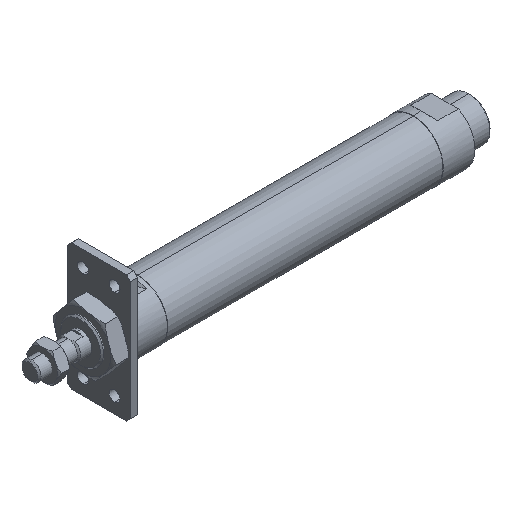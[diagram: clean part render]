
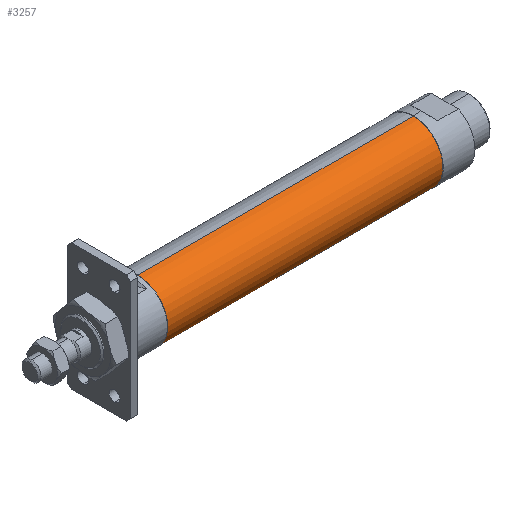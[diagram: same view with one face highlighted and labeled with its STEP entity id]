
A CAD part, isometric view. The second image highlights one B-rep face of the part: STEP entity #3257.
In plain terms, the highlighted cylindrical face has radius 18.8 mm (diameter 37.6 mm), a partial arc.
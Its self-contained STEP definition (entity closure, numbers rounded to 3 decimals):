
#102 = ORIENTED_EDGE ( 'NONE', *, *, #3324, .T. ) ;
#325 = ORIENTED_EDGE ( 'NONE', *, *, #2297, .F. ) ;
#369 = FACE_OUTER_BOUND ( 'NONE', #1421, .T. ) ;
#443 = LINE ( 'NONE', #2224, #2322 ) ;
#607 = EDGE_CURVE ( 'NONE', #1220, #4188, #3361, .T. ) ;
#806 = DIRECTION ( 'NONE',  ( 0., 0., 1. ) ) ;
#820 = CIRCLE ( 'NONE', #2637, 18.8 ) ;
#971 = CARTESIAN_POINT ( 'NONE',  ( 242., 0., -18.8 ) ) ;
#1046 = EDGE_CURVE ( 'NONE', #1268, #1720, #443, .T. ) ;
#1066 = DIRECTION ( 'NONE',  ( -1., 0., 0. ) ) ;
#1095 = CARTESIAN_POINT ( 'NONE',  ( 68., 0., 0. ) ) ;
#1220 = VERTEX_POINT ( 'NONE', #1644 ) ;
#1268 = VERTEX_POINT ( 'NONE', #971 ) ;
#1421 = EDGE_LOOP ( 'NONE', ( #3566, #102, #2634, #325 ) ) ;
#1504 = DIRECTION ( 'NONE',  ( 0., 0., 1. ) ) ;
#1549 = DIRECTION ( 'NONE',  ( 0., 0., 1. ) ) ;
#1644 = CARTESIAN_POINT ( 'NONE',  ( 242., 0., 18.8 ) ) ;
#1720 = VERTEX_POINT ( 'NONE', #2921 ) ;
#2104 = DIRECTION ( 'NONE',  ( -1., 0., 0. ) ) ;
#2224 = CARTESIAN_POINT ( 'NONE',  ( -1.784, 0., -18.8 ) ) ;
#2254 = CIRCLE ( 'NONE', #3172, 18.8 ) ;
#2297 = EDGE_CURVE ( 'NONE', #1720, #4188, #2254, .T. ) ;
#2322 = VECTOR ( 'NONE', #2838, 1000. ) ;
#2513 = CARTESIAN_POINT ( 'NONE',  ( 242., 0., 0. ) ) ;
#2634 = ORIENTED_EDGE ( 'NONE', *, *, #607, .T. ) ;
#2637 = AXIS2_PLACEMENT_3D ( 'NONE', #2513, #4006, #806 ) ;
#2838 = DIRECTION ( 'NONE',  ( -1., 0., 0. ) ) ;
#2891 = CYLINDRICAL_SURFACE ( 'NONE', #3491, 18.8 ) ;
#2921 = CARTESIAN_POINT ( 'NONE',  ( 68., 0., -18.8 ) ) ;
#3172 = AXIS2_PLACEMENT_3D ( 'NONE', #1095, #4076, #1504 ) ;
#3257 = ADVANCED_FACE ( 'NONE', ( #369 ), #2891, .T. ) ;
#3324 = EDGE_CURVE ( 'NONE', #1268, #1220, #820, .T. ) ;
#3361 = LINE ( 'NONE', #3922, #3981 ) ;
#3491 = AXIS2_PLACEMENT_3D ( 'NONE', #4118, #1066, #1549 ) ;
#3566 = ORIENTED_EDGE ( 'NONE', *, *, #1046, .F. ) ;
#3893 = CARTESIAN_POINT ( 'NONE',  ( 68., 0., 18.8 ) ) ;
#3922 = CARTESIAN_POINT ( 'NONE',  ( -1.784, 0., 18.8 ) ) ;
#3981 = VECTOR ( 'NONE', #2104, 1000. ) ;
#4006 = DIRECTION ( 'NONE',  ( -1., 0., 0. ) ) ;
#4076 = DIRECTION ( 'NONE',  ( -1., 0., 0. ) ) ;
#4118 = CARTESIAN_POINT ( 'NONE',  ( -1.784, 0., 0. ) ) ;
#4188 = VERTEX_POINT ( 'NONE', #3893 ) ;
